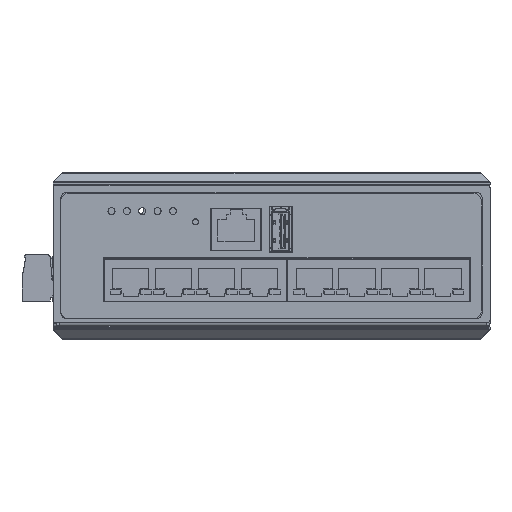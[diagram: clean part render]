
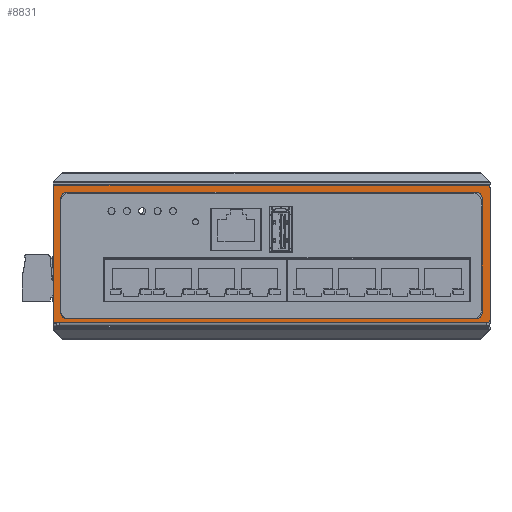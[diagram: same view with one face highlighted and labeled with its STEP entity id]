
A CAD part, top view. The second image highlights one B-rep face of the part: STEP entity #8831.
In plain terms, the highlighted planar face has unit normal (0, 0, 1).
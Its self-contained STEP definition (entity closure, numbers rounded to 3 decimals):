
#411=DIRECTION('',(1.,0.,0.));
#412=VECTOR('',#411,138.8);
#413=CARTESIAN_POINT('',(-69.4,0.1,49.));
#414=LINE('',#413,#412);
#419=DIRECTION('',(-1.,0.,0.));
#420=VECTOR('',#419,0.1);
#421=CARTESIAN_POINT('',(69.5,0.1,49.));
#422=LINE('',#421,#420);
#423=DIRECTION('',(-1.,0.,0.));
#424=VECTOR('',#423,1.1);
#425=CARTESIAN_POINT('',(-69.4,0.1,49.));
#426=LINE('',#425,#424);
#427=CARTESIAN_POINT('',(-70.5,1.1,49.));
#428=DIRECTION('',(0.,0.,-1.));
#429=DIRECTION('',(0.,-1.,0.));
#430=AXIS2_PLACEMENT_3D('',#427,#428,#429);
#432=CARTESIAN_POINT('',(-70.5,44.,49.));
#433=DIRECTION('',(0.,0.,-1.));
#434=DIRECTION('',(-1.,0.,0.));
#435=AXIS2_PLACEMENT_3D('',#432,#433,#434);
#437=CARTESIAN_POINT('',(69.5,44.,49.));
#438=DIRECTION('',(0.,0.,-1.));
#439=DIRECTION('',(0.,1.,0.));
#440=AXIS2_PLACEMENT_3D('',#437,#438,#439);
#442=CARTESIAN_POINT('',(69.5,1.1,49.));
#443=DIRECTION('',(0.,0.,-1.));
#444=DIRECTION('',(1.,0.,0.));
#445=AXIS2_PLACEMENT_3D('',#442,#443,#444);
#447=CARTESIAN_POINT('',(-67.,3.5,49.));
#448=DIRECTION('',(0.,0.,1.));
#449=DIRECTION('',(-1.,0.,0.));
#450=AXIS2_PLACEMENT_3D('',#447,#448,#449);
#452=CARTESIAN_POINT('',(66.,3.5,49.));
#453=DIRECTION('',(0.,0.,1.));
#454=DIRECTION('',(0.,-1.,0.));
#455=AXIS2_PLACEMENT_3D('',#452,#453,#454);
#457=CARTESIAN_POINT('',(66.,40.5,49.));
#458=DIRECTION('',(0.,0.,1.));
#459=DIRECTION('',(1.,0.,0.));
#460=AXIS2_PLACEMENT_3D('',#457,#458,#459);
#462=CARTESIAN_POINT('',(-67.,40.5,49.));
#463=DIRECTION('',(0.,0.,1.));
#464=DIRECTION('',(0.,1.,0.));
#465=AXIS2_PLACEMENT_3D('',#462,#463,#464);
#613=DIRECTION('',(0.,1.,0.));
#614=VECTOR('',#613,42.9);
#615=CARTESIAN_POINT('',(70.5,1.1,49.));
#616=LINE('',#615,#614);
#625=DIRECTION('',(-1.,0.,0.));
#626=VECTOR('',#625,140.);
#627=CARTESIAN_POINT('',(69.5,45.,49.));
#628=LINE('',#627,#626);
#641=DIRECTION('',(0.,-1.,0.));
#642=VECTOR('',#641,42.9);
#643=CARTESIAN_POINT('',(-71.5,44.,49.));
#644=LINE('',#643,#642);
#6045=DIRECTION('',(0.,-1.,0.));
#6046=VECTOR('',#6045,37.);
#6047=CARTESIAN_POINT('',(68.,40.5,49.));
#6048=LINE('',#6047,#6046);
#6057=DIRECTION('',(-1.,0.,0.));
#6058=VECTOR('',#6057,133.);
#6059=CARTESIAN_POINT('',(66.,1.5,49.));
#6060=LINE('',#6059,#6058);
#6069=DIRECTION('',(0.,1.,0.));
#6070=VECTOR('',#6069,37.);
#6071=CARTESIAN_POINT('',(-69.,3.5,49.));
#6072=LINE('',#6071,#6070);
#6081=DIRECTION('',(1.,0.,0.));
#6082=VECTOR('',#6081,133.);
#6083=CARTESIAN_POINT('',(-67.,42.5,49.));
#6084=LINE('',#6083,#6082);
#6599=CARTESIAN_POINT('',(-69.4,0.1,49.));
#6600=VERTEX_POINT('',#6599);
#6603=CARTESIAN_POINT('',(69.4,0.1,49.));
#6604=VERTEX_POINT('',#6603);
#6607=CARTESIAN_POINT('',(69.5,0.1,49.));
#6608=VERTEX_POINT('',#6607);
#6609=CARTESIAN_POINT('',(-70.5,0.1,49.));
#6610=VERTEX_POINT('',#6609);
#6611=CARTESIAN_POINT('',(-71.5,1.1,49.));
#6612=VERTEX_POINT('',#6611);
#6613=CARTESIAN_POINT('',(-71.5,44.,49.));
#6614=VERTEX_POINT('',#6613);
#6615=CARTESIAN_POINT('',(-70.5,45.,49.));
#6616=VERTEX_POINT('',#6615);
#6617=CARTESIAN_POINT('',(69.5,45.,49.));
#6618=VERTEX_POINT('',#6617);
#6619=CARTESIAN_POINT('',(70.5,44.,49.));
#6620=VERTEX_POINT('',#6619);
#6621=CARTESIAN_POINT('',(70.5,1.1,49.));
#6622=VERTEX_POINT('',#6621);
#6623=CARTESIAN_POINT('',(-69.,3.5,49.));
#6624=CARTESIAN_POINT('',(-69.,40.5,49.));
#6625=VERTEX_POINT('',#6623);
#6626=VERTEX_POINT('',#6624);
#6627=CARTESIAN_POINT('',(-67.,1.5,49.));
#6628=VERTEX_POINT('',#6627);
#6629=CARTESIAN_POINT('',(66.,1.5,49.));
#6630=VERTEX_POINT('',#6629);
#6631=CARTESIAN_POINT('',(68.,3.5,49.));
#6632=VERTEX_POINT('',#6631);
#6633=CARTESIAN_POINT('',(68.,40.5,49.));
#6634=VERTEX_POINT('',#6633);
#6635=CARTESIAN_POINT('',(66.,42.5,49.));
#6636=VERTEX_POINT('',#6635);
#6637=CARTESIAN_POINT('',(-67.,42.5,49.));
#6638=VERTEX_POINT('',#6637);
#8787=CARTESIAN_POINT('',(0.,0.,49.));
#8788=DIRECTION('',(0.,0.,1.));
#8789=DIRECTION('',(0.,-1.,0.));
#8790=AXIS2_PLACEMENT_3D('',#8787,#8788,#8789);
#8791=PLANE('',#8790);
#8793=ORIENTED_EDGE('',*,*,#8792,.T.);
#8794=ORIENTED_EDGE('',*,*,#8777,.F.);
#8796=ORIENTED_EDGE('',*,*,#8795,.T.);
#8798=ORIENTED_EDGE('',*,*,#8797,.T.);
#8800=ORIENTED_EDGE('',*,*,#8799,.F.);
#8802=ORIENTED_EDGE('',*,*,#8801,.T.);
#8804=ORIENTED_EDGE('',*,*,#8803,.F.);
#8806=ORIENTED_EDGE('',*,*,#8805,.T.);
#8808=ORIENTED_EDGE('',*,*,#8807,.F.);
#8810=ORIENTED_EDGE('',*,*,#8809,.T.);
#8811=EDGE_LOOP('',(#8793,#8794,#8796,#8798,#8800,#8802,#8804,#8806,#8808,
#8810));
#8812=FACE_OUTER_BOUND('',#8811,.F.);
#8814=ORIENTED_EDGE('',*,*,#8813,.F.);
#8816=ORIENTED_EDGE('',*,*,#8815,.T.);
#8818=ORIENTED_EDGE('',*,*,#8817,.F.);
#8820=ORIENTED_EDGE('',*,*,#8819,.T.);
#8822=ORIENTED_EDGE('',*,*,#8821,.F.);
#8824=ORIENTED_EDGE('',*,*,#8823,.T.);
#8826=ORIENTED_EDGE('',*,*,#8825,.F.);
#8828=ORIENTED_EDGE('',*,*,#8827,.T.);
#8829=EDGE_LOOP('',(#8814,#8816,#8818,#8820,#8822,#8824,#8826,#8828));
#8830=FACE_BOUND('',#8829,.F.);
#431=CIRCLE('',#430,1.);
#436=CIRCLE('',#435,1.);
#441=CIRCLE('',#440,1.);
#446=CIRCLE('',#445,1.);
#451=CIRCLE('',#450,2.);
#456=CIRCLE('',#455,2.);
#461=CIRCLE('',#460,2.);
#466=CIRCLE('',#465,2.);
#8777=EDGE_CURVE('',#6600,#6604,#414,.T.);
#8792=EDGE_CURVE('',#6608,#6604,#422,.T.);
#8795=EDGE_CURVE('',#6600,#6610,#426,.T.);
#8797=EDGE_CURVE('',#6610,#6612,#431,.T.);
#8799=EDGE_CURVE('',#6614,#6612,#644,.T.);
#8801=EDGE_CURVE('',#6614,#6616,#436,.T.);
#8803=EDGE_CURVE('',#6618,#6616,#628,.T.);
#8805=EDGE_CURVE('',#6618,#6620,#441,.T.);
#8807=EDGE_CURVE('',#6622,#6620,#616,.T.);
#8809=EDGE_CURVE('',#6622,#6608,#446,.T.);
#8813=EDGE_CURVE('',#6625,#6626,#6072,.T.);
#8815=EDGE_CURVE('',#6625,#6628,#451,.T.);
#8817=EDGE_CURVE('',#6630,#6628,#6060,.T.);
#8819=EDGE_CURVE('',#6630,#6632,#456,.T.);
#8821=EDGE_CURVE('',#6634,#6632,#6048,.T.);
#8823=EDGE_CURVE('',#6634,#6636,#461,.T.);
#8825=EDGE_CURVE('',#6638,#6636,#6084,.T.);
#8827=EDGE_CURVE('',#6638,#6626,#466,.T.);
#8831=ADVANCED_FACE('',(#8812,#8830),#8791,.T.);
